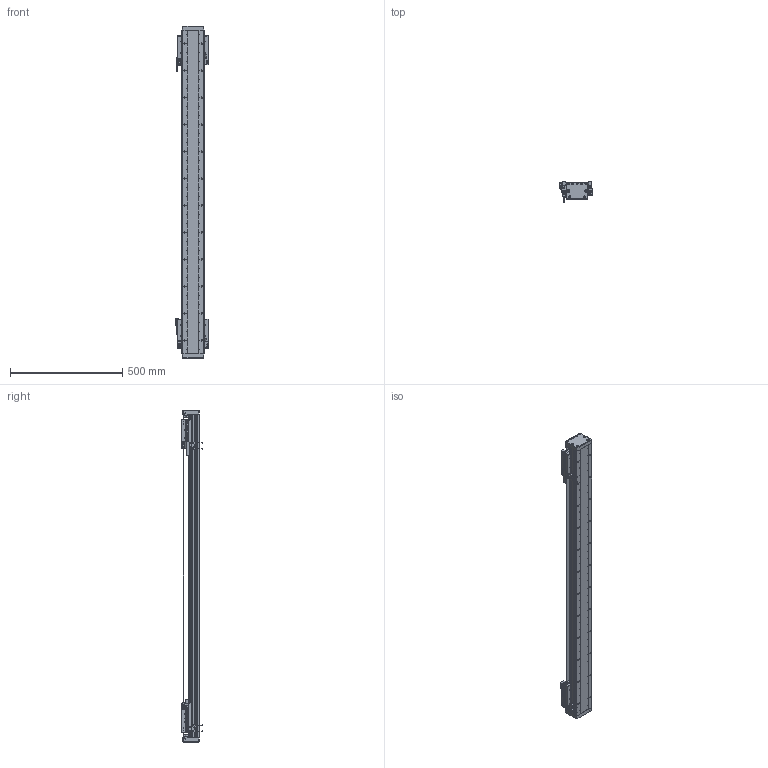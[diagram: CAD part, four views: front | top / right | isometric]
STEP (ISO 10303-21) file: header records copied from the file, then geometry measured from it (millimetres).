
FILE_DESCRIPTION (( 'STEP AP203' ), '1' );
FILE_NAME ('DA-B95-2-B15-T1100-C010-0.2 直线电机.STEP', '2023-05-06T06:29:12', ( '微软用户' ), ( '微软中国' ), 'SwSTEP 2.0', 'SolidWorks 2019', '' );
FILE_SCHEMA (( 'CONFIG_CONTROL_DESIGN' ));
Length unit declared in the file: millimetre
Products named in the file (34): 复件 复件 18252-0001-003-00 钢带拉块^DA-A95-B15-T-C010-0.2-N 直线电机; 复件 66245-BU95-HT-V-01 滑动台板^66245-BU95-V-00 一体化滑动台板; 葩璃 DA95-B15-DP--B-00 菜えB^66245-BU95-V 幗紩賑怢; 葩璃 BKMA01-W060-TRL^DA-A95-B15-T-C010-0.2-N 眻盄萇儂; 复件 DA95-B15 钢带盖板^DA-A95-B15-T-C010-0.2-N 直线电机; 复件 DA95-DK-00 挡块^66245-BU95-V 滚珠滑台; 66245-BU95-V-00 珨极趙賑雄怢啣; IU-BU95-L 菁釱絳寢; B15 XD-U-02L ｴﾅﾕ､ｳﾟ^DA-A95-B15-T-C010-0.2-N ﾖｱﾏﾟｵ扈銈XD-U-02L; 66245-BU95-V 幗紩賑怢; 复件 DA95-DB-00  挡板^66245-BU95-V 滚珠滑台; IU-BU95-L-00 菁釱_L1440; 复件 复件 18252-0001-002-00 钢带垫块^DA-A95-B15-T-C010-0.2-N 直线电机; 复件 DKW-KGZ-ZJ-00 中间光电开关支架^DA-A95-B15-T-C010-0.2-N 直线电机; 葩璃 DA95-B15-DP-A-00 菜えA^66245-BU95-V 幗紩賑怢; 葩璃 PM-Y45^DA-A95-B15-T-C010-0.2-N 眻盄萇儂; DA95-HXJ-00 缓冲橡胶^DA-A95-B15-T-C010-0.2-N 直线电机; DA-B95-2-B15-T1100-C010-0.2 眻盄萇儂; 复件 DKW-HXJ-JY-00 缓冲橡胶^DA-A95-B15-T-C010-0.2-N 直线电机; 复件 DKW-GYP-ZJ-00 中间光电感应片^DA-A95-B15-T-C010-0.2-N 直线电机; 葩璃 DA95-GT-T-00^IU-BU95-L 菁釱絳寢_DA95; LMDK-2-R001-V5-L02-C1-F00，0.2M 读数头^DA-A95-B15-T-C010-0.2-N 直线电机_DMA-010-0.2; 复件 DA95-B15-YB-A-00 压板A^66245-BU95-V 滚珠滑台; 复件 纯铜油杯 6x6mm^66245-BU95-V 滚珠滑台; 复件 DA95-B15-YB-B-00 压板B^66245-BU95-V 滚珠滑台; PM-T45 光电开关^DA-A95-B15-T-C010-0.2-N 直线电机; 复件 复件 18252-0001-004-00 钢带端盖^DA-A95-B15-T-C010-0.2-N 直线电机; 复件 六角薄螺母 M3^DA-A95-B15-T-C010-0.2-N 直线电机_GB_FASTENER_NUT_STNAB M3-C; 复件 DA95-HK-GT-00 滑块钢轨^66245-BU95-V-00 一体化滑动台板; 复件 DA95-MFP-01 密封片^66245-BU95-V 滚珠滑台; 葩璃 BKM015-W060-C1-TP-DA-0.2^DA-A95-B15-T-C010-0.2-N 眻盄萇儂; DA-A95-GYP-00 光电感应片^DA-A95-B15-T-C010-0.2-N 直线电机
Assembly tree (80 placements, depth 4):
  DA-B95-2-B15-T1100-C010-0.2 眻盄萇儂
    IU-BU95-L 菁釱絳寢
      IU-BU95-L-00 菁釱_L1440
      葩璃 DA95-GT-T-00^IU-BU95-L 菁釱絳寢_DA95  x2
    66245-BU95-V 幗紩賑怢
      66245-BU95-V-00 珨极趙賑雄怢啣
        复件 66245-BU95-HT-V-01 滑动台板^66245-BU95-V-00 一体化滑动台板
        复件 DA95-HK-GT-00 滑块钢轨^66245-BU95-V-00 一体化滑动台板  x2
      葩璃 DA95-B15-DP-A-00 菜えA^66245-BU95-V 幗紩賑怢
      复件 DA95-B15-YB-A-00 压板A^66245-BU95-V 滚珠滑台
      复件 DA95-B15-YB-B-00 压板B^66245-BU95-V 滚珠滑台
      复件 DA95-DB-00  挡板^66245-BU95-V 滚珠滑台  x4
      复件 DA95-DK-00 挡块^66245-BU95-V 滚珠滑台  x2
      复件 DA95-MFP-01 密封片^66245-BU95-V 滚珠滑台  x4
      复件 纯铜油杯 6x6mm^66245-BU95-V 滚珠滑台  x2
      葩璃 DA95-B15-DP--B-00 菜えB^66245-BU95-V 幗紩賑怢
    66245-BU95-V 幗紩賑怢
      66245-BU95-V-00 珨极趙賑雄怢啣
        复件 66245-BU95-HT-V-01 滑动台板^66245-BU95-V-00 一体化滑动台板
        复件 DA95-HK-GT-00 滑块钢轨^66245-BU95-V-00 一体化滑动台板  x2
      葩璃 DA95-B15-DP-A-00 菜えA^66245-BU95-V 幗紩賑怢
      复件 DA95-B15-YB-A-00 压板A^66245-BU95-V 滚珠滑台
      复件 DA95-B15-YB-B-00 压板B^66245-BU95-V 滚珠滑台
      复件 DA95-DB-00  挡板^66245-BU95-V 滚珠滑台  x4
      复件 DA95-DK-00 挡块^66245-BU95-V 滚珠滑台  x2
      复件 DA95-MFP-01 密封片^66245-BU95-V 滚珠滑台  x4
      复件 纯铜油杯 6x6mm^66245-BU95-V 滚珠滑台  x2
      葩璃 DA95-B15-DP--B-00 菜えB^66245-BU95-V 幗紩賑怢
    DA-A95-GYP-00 光电感应片^DA-A95-B15-T-C010-0.2-N 直线电机  x2
    LMDK-2-R001-V5-L02-C1-F00，0.2M 读数头^DA-A95-B15-T-C010-0.2-N 直线电机_DMA-010-0.2  x2
    复件 DKW-KGZ-ZJ-00 中间光电开关支架^DA-A95-B15-T-C010-0.2-N 直线电机
    葩璃 PM-Y45^DA-A95-B15-T-C010-0.2-N 眻盄萇儂
    复件 DKW-GYP-ZJ-00 中间光电感应片^DA-A95-B15-T-C010-0.2-N 直线电机
    葩璃 BKM015-W060-C1-TP-DA-0.2^DA-A95-B15-T-C010-0.2-N 眻盄萇儂  x2
    复件 DKW-HXJ-JY-00 缓冲橡胶^DA-A95-B15-T-C010-0.2-N 直线电机  x2
    PM-T45 光电开关^DA-A95-B15-T-C010-0.2-N 直线电机  x4
    B15 XD-U-02L ｴﾅﾕ､ｳﾟ^DA-A95-B15-T-C010-0.2-N ﾖｱﾏﾟｵ扈銈XD-U-02L
    复件 复件 18252-0001-003-00 钢带拉块^DA-A95-B15-T-C010-0.2-N 直线电机  x2
    复件 复件 18252-0001-002-00 钢带垫块^DA-A95-B15-T-C010-0.2-N 直线电机  x2
    复件 复件 18252-0001-004-00 钢带端盖^DA-A95-B15-T-C010-0.2-N 直线电机  x2
    复件 DA95-B15 钢带盖板^DA-A95-B15-T-C010-0.2-N 直线电机
    DA95-HXJ-00 缓冲橡胶^DA-A95-B15-T-C010-0.2-N 直线电机  x4
    葩璃 BKMA01-W060-TRL^DA-A95-B15-T-C010-0.2-N 眻盄萇儂
    复件 六角薄螺母 M3^DA-A95-B15-T-C010-0.2-N 直线电机_GB_FASTENER_NUT_STNAB M3-C  x6
Bounding box: 145.4 x 90.2 x 1476 mm (x, y, z)
Volume: 5339842.4 mm3; surface area: 1721371.4 mm2
Topology: 75 solids, 93 shells, 3736 faces, 10108 edges, 6351 vertices
Faces by surface type: cylinder 1797, plane 1407, cone 464, torus 64, sphere 4
Entity records: 78570 total; most frequent: CARTESIAN_POINT 18448, DIRECTION 11662, ORIENTED_EDGE 11574, EDGE_CURVE 5787, AXIS2_PLACEMENT_3D 4389, VERTEX_POINT 3753, VECTOR 2884, LINE 2884
